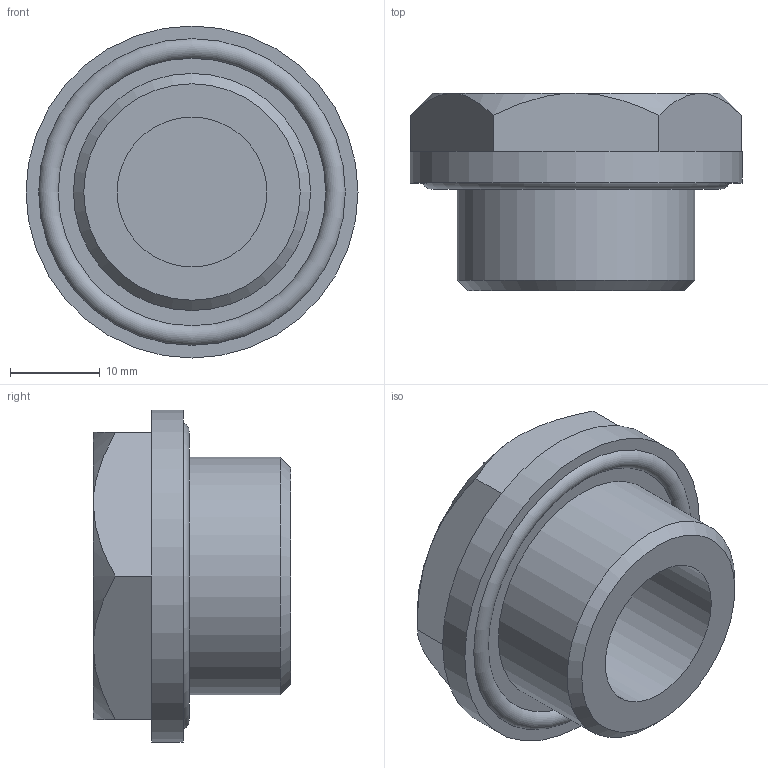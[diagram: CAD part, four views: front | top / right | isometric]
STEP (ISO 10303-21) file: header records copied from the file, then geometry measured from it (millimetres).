
FILE_DESCRIPTION( ( 'STEP AP203' ), '1' );
FILE_NAME( 'C:/Temp/Ganter_Step_05_03_2020/data/3_5/gn740_2/Threaded plug GN 740.2-G3_4.stp', '2020-03-12T13:43:56', ( 'License CC BY-ND 4.0' ), ( 'CADENAS' ), ' ', 'PARTsolutions', ' ' );
FILE_SCHEMA( ( 'CONFIG_CONTROL_DESIGN' ) );
Length unit declared in the file: millimetre
Products named in the file (1): _Threaded plug GN 740.2-G3/4
Bounding box: 37 x 22 x 37 mm (x, y, z)
Volume: 12351.7 mm3; surface area: 5110 mm2
Topology: 1 solids, 1 shells, 52 faces, 124 edges, 81 vertices
Faces by surface type: plane 40, cone 7, cylinder 4, torus 1
Full cylindrical faces by diameter (mm): 16.7 x1, 25 x1, 26.441 x1, 37 x1
Entity records: 1541 total; most frequent: CARTESIAN_POINT 332, ORIENTED_EDGE 232, DIRECTION 227, EDGE_CURVE 116, LINE 87, VECTOR 87, VERTEX_POINT 79, AXIS2_PLACEMENT_3D 70
